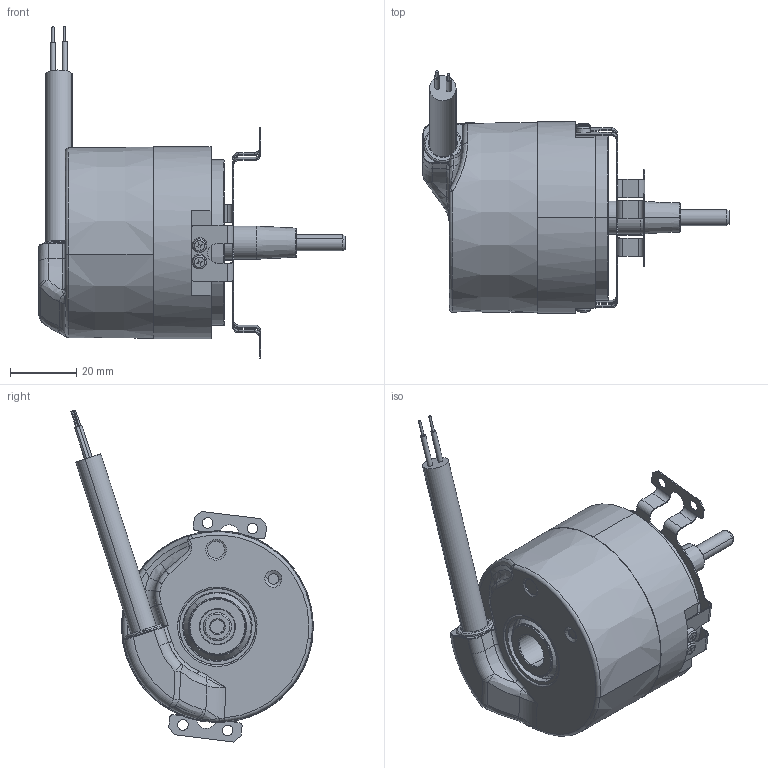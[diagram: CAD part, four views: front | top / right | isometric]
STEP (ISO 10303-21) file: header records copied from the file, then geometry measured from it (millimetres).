
FILE_DESCRIPTION (( 'STEP AP203' ), '1' );
FILE_NAME ('8.5834FSX.BKXE.XXXX.STEP', '2013-08-01T13:53:16', ( 'Admin' ), ( 'Fritz Kübler GmbH' ), 'SwSTEP 2.0', 'SolidWorks 2012', '' );
FILE_SCHEMA (( 'CONFIG_CONTROL_DESIGN' ));
Length unit declared in the file: millimetre
Products named in the file (1): 8.5834FSX.BKXE.XXXX
Bounding box: 92.5 x 73.34 x 100.34 mm (x, y, z)
Volume: 76563.2 mm3; surface area: 48784.9 mm2
Topology: 13 solids, 13 shells, 1756 faces, 4202 edges, 2499 vertices
Faces by surface type: cylinder 576, plane 425, bspline 365, cone 182, torus 170, sphere 38
Entity records: 62140 total; most frequent: CARTESIAN_POINT 24410, ORIENTED_EDGE 8212, DIRECTION 7521, EDGE_CURVE 4106, AXIS2_PLACEMENT_3D 3077, VERTEX_POINT 2469, EDGE_LOOP 1913, FACE_OUTER_BOUND 1756
